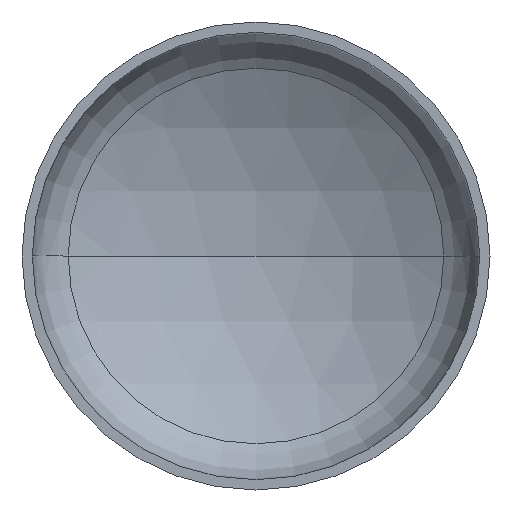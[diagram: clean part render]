
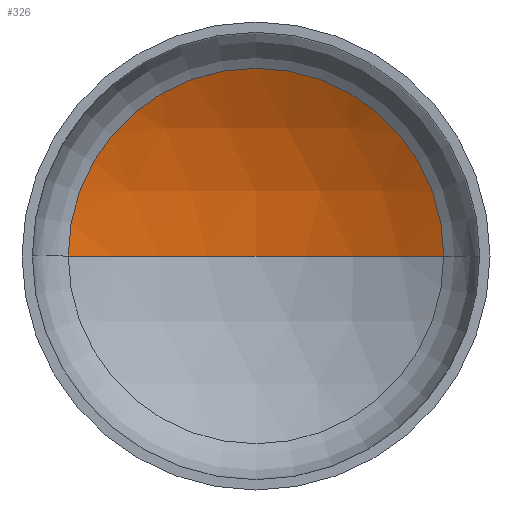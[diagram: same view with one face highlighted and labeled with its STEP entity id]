
A CAD part, front view. The second image highlights one B-rep face of the part: STEP entity #326.
In plain terms, the highlighted spherical face has radius 4000 mm.
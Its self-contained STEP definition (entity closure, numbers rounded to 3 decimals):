
#1 = AXIS2_PLACEMENT_3D ( 'NONE', #161, #142, #165 ) ;
#6 = CARTESIAN_POINT ( 'NONE',  ( 0., 741.15, 0. ) ) ;
#10 = VERTEX_POINT ( 'NONE', #280 ) ;
#17 = CARTESIAN_POINT ( 'NONE',  ( 0., -2719.369, 0. ) ) ;
#28 = ORIENTED_EDGE ( 'NONE', *, *, #101, .T. ) ;
#29 = EDGE_LOOP ( 'NONE', ( #41, #145, #28 ) ) ;
#33 = AXIS2_PLACEMENT_3D ( 'NONE', #361, #185, #201 ) ;
#35 = AXIS2_PLACEMENT_3D ( 'NONE', #17, #219, #386 ) ;
#36 = AXIS2_PLACEMENT_3D ( 'NONE', #6, #128, #261 ) ;
#38 = CIRCLE ( 'NONE', #33, 4000. ) ;
#41 = ORIENTED_EDGE ( 'NONE', *, *, #105, .F. ) ;
#65 = VERTEX_POINT ( 'NONE', #234 ) ;
#101 = EDGE_CURVE ( 'NONE', #10, #65, #292, .T. ) ;
#102 = EDGE_CURVE ( 'NONE', #120, #10, #235, .T. ) ;
#105 = EDGE_CURVE ( 'NONE', #120, #65, #38, .T. ) ;
#120 = VERTEX_POINT ( 'NONE', #193 ) ;
#128 = DIRECTION ( 'NONE',  ( 0., -1., 0. ) ) ;
#142 = DIRECTION ( 'NONE',  ( 0., 0., -1. ) ) ;
#145 = ORIENTED_EDGE ( 'NONE', *, *, #102, .T. ) ;
#161 = CARTESIAN_POINT ( 'NONE',  ( 0., -2719.369, 0. ) ) ;
#165 = DIRECTION ( 'NONE',  ( -1., 0., 0. ) ) ;
#185 = DIRECTION ( 'NONE',  ( 0., 0., 1. ) ) ;
#193 = CARTESIAN_POINT ( 'NONE',  ( 0., 1280.631, 0. ) ) ;
#201 = DIRECTION ( 'NONE',  ( 1., 0., 0. ) ) ;
#219 = DIRECTION ( 'NONE',  ( 0., 0., -1. ) ) ;
#234 = CARTESIAN_POINT ( 'NONE',  ( -2006.192, 741.15, 0. ) ) ;
#235 = CIRCLE ( 'NONE', #35, 4000. ) ;
#261 = DIRECTION ( 'NONE',  ( 1., 0., 0. ) ) ;
#269 = SPHERICAL_SURFACE ( 'NONE', #1, 4000. ) ;
#280 = CARTESIAN_POINT ( 'NONE',  ( 2006.192, 741.15, 0. ) ) ;
#292 = CIRCLE ( 'NONE', #36, 2006.192 ) ;
#326 = ADVANCED_FACE ( 'NONE', ( #396 ), #269, .F. ) ;
#361 = CARTESIAN_POINT ( 'NONE',  ( 0., -2719.369, 0. ) ) ;
#386 = DIRECTION ( 'NONE',  ( -1., 0., 0. ) ) ;
#396 = FACE_OUTER_BOUND ( 'NONE', #29, .T. ) ;
